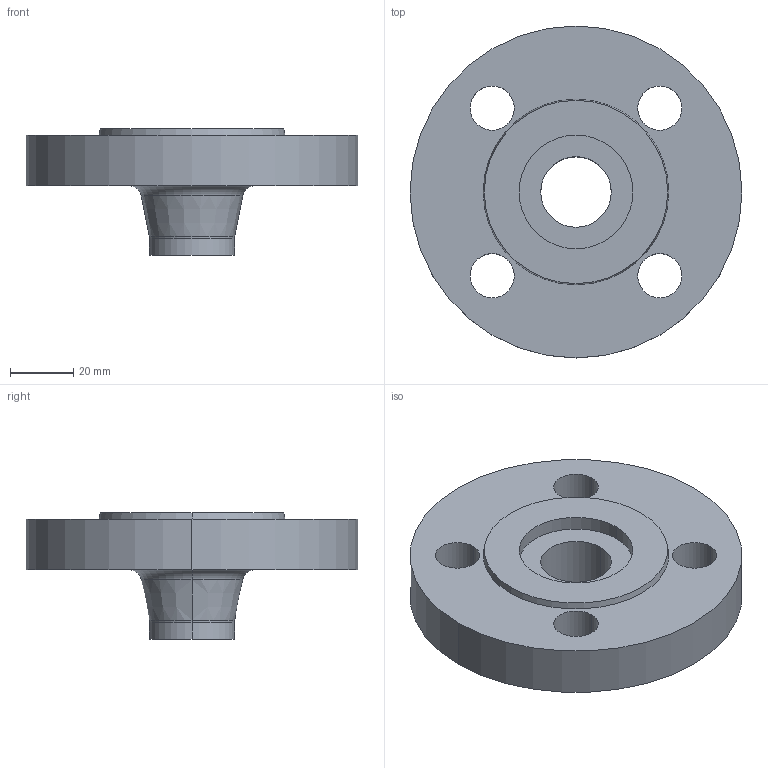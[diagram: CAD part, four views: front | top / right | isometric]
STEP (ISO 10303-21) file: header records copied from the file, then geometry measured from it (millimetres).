
FILE_DESCRIPTION (( 'STEP AP214' ), '1' );
FILE_NAME ('PN40 DN20 Type 11 - Type G Face.STEP', '2018-12-29T18:19:30', ( '' ), ( '' ), 'SwSTEP 2.0', 'SolidWorks 2019', '' );
FILE_SCHEMA (( 'AUTOMOTIVE_DESIGN' ));
Length unit declared in the file: millimetre
Products named in the file (1): PN40 DN20 Type 11 - Type G Face
Bounding box: 105 x 105 x 40 mm (x, y, z)
Volume: 130777.5 mm3; surface area: 28343.1 mm2
Topology: 1 solids, 1 shells, 29 faces, 66 edges, 42 vertices
Faces by surface type: cylinder 16, plane 5, torus 4, cone 4
Entity records: 892 total; most frequent: DIRECTION 172, CARTESIAN_POINT 138, ORIENTED_EDGE 132, AXIS2_PLACEMENT_3D 76, EDGE_CURVE 66, CIRCLE 46, VERTEX_POINT 42, EDGE_LOOP 42
